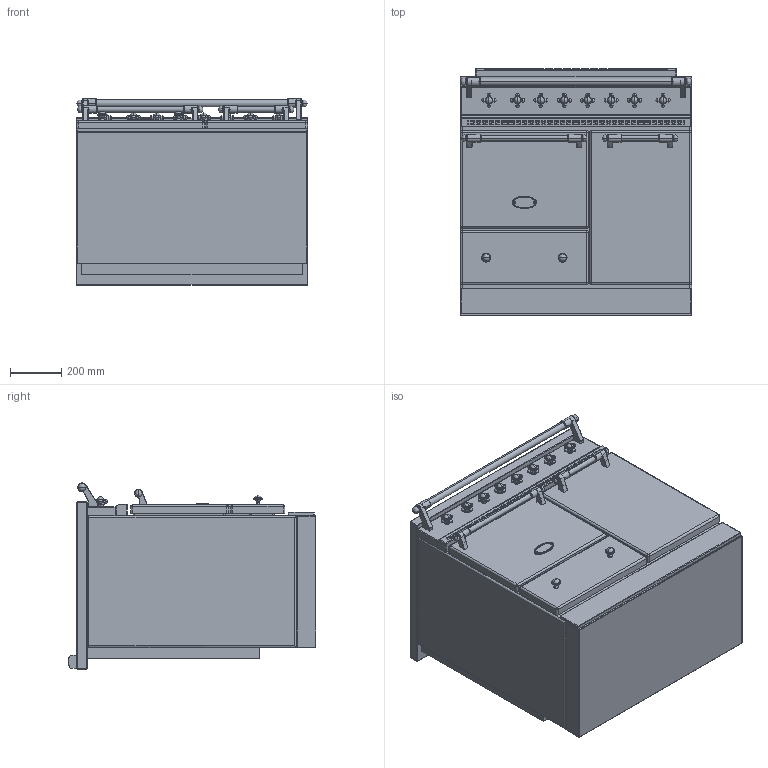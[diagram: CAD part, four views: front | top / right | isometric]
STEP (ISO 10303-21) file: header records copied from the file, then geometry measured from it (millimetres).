
FILE_DESCRIPTION((''),'2;1');
FILE_NAME('LVI962D_ASM','2021-12-01T16:42:54',('j.cheno'),(''),'CREO PARAMETRIC BY PTC INC, 2017260','CREO PARAMETRIC BY PTC INC, 2017260','');
FILE_SCHEMA(('AP203_CONFIGURATION_CONTROLLED_3D_DESIGN_OF_MECHANICAL_PARTS_AND_ASSEMBLIES_MIM_LF { 1 0 10303 403 2 1 2 }'));
Products named in the file (18): BASE_EXPORT_BEAUNE; 65650003; 65650004; 6531940; 6531941; 6538399; 1931942; 65080022_AF0; 6531942_ASM; 6531943; 65049009; 65650001; BASE_EXPORT_BEAUNE_ASM; TABLE_900_INDUCTION; VERRE_65213057; CHEMINEE_2020_LG782_EXPORT_STEP; TABLE_900_INDUCTION_ASM; LVI962D_ASM
Assembly tree (27 placements, depth 4):
  LVI962D_ASM
    BASE_EXPORT_BEAUNE_ASM
      BASE_EXPORT_BEAUNE
      65650003
      65650004
      6531940  x2
      6531941  x2
      6531942_ASM  x8
        6538399
        1931942
        65080022_AF0
      6531943  x2
      65049009
      65650001
    TABLE_900_INDUCTION_ASM
      TABLE_900_INDUCTION
      VERRE_65213057
      CHEMINEE_2020_LG782_EXPORT_STEP
Bounding box: 900 x 963 x 724 mm (x, y, z)
Volume: 486568174.2 mm3; surface area: 8143120.8 mm2
Topology: 45 solids, 53 shells, 5078 faces, 13600 edges, 8732 vertices
Faces by surface type: plane 2784, cylinder 1414, extrusion 316, torus 194, sphere 186, cone 90, bspline 82, revolution 12
Entity records: 107081 total; most frequent: CARTESIAN_POINT 23593, ORIENTED_EDGE 14892, DIRECTION 13803, EDGE_CURVE 7456, VECTOR 5216, LINE 5096, VERTEX_POINT 4859, AXIS2_PLACEMENT_3D 4264
